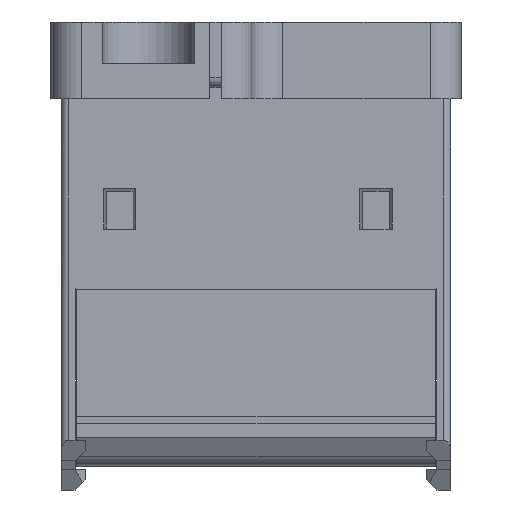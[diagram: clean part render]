
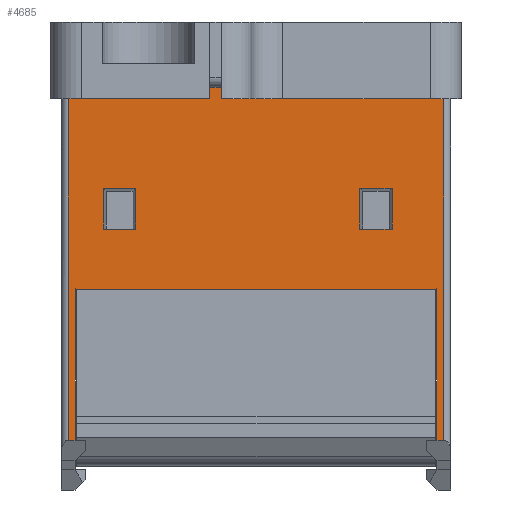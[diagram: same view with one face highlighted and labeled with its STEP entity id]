
A CAD part, front view. The second image highlights one B-rep face of the part: STEP entity #4685.
In plain terms, the highlighted planar face has unit normal (0, -1, 0).
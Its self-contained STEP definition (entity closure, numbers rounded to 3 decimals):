
#3615=CARTESIAN_POINT('',(-17.65,-20.9,-18.6));
#3616=VERTEX_POINT('',#3615);
#3623=CARTESIAN_POINT('',(-17.65,-20.9,-33.3));
#3624=VERTEX_POINT('',#3623);
#3625=CARTESIAN_POINT('',(-17.65,-20.9,-18.6));
#3626=DIRECTION('',(0.0,0.0,-1.0));
#3627=VECTOR('',#3626,14.7);
#3628=LINE('',#3625,#3627);
#3629=EDGE_CURVE('',#3616,#3624,#3628,.T.);
#3815=CARTESIAN_POINT('',(17.65,-20.9,-33.3));
#3816=VERTEX_POINT('',#3815);
#3823=CARTESIAN_POINT('',(17.65,-20.9,-18.6));
#3824=VERTEX_POINT('',#3823);
#3825=CARTESIAN_POINT('',(17.65,-20.9,-18.6));
#3826=DIRECTION('',(0.0,0.0,-1.0));
#3827=VECTOR('',#3826,14.7);
#3828=LINE('',#3825,#3827);
#3829=EDGE_CURVE('',#3824,#3816,#3828,.T.);
#4006=CARTESIAN_POINT('',(-11.73,-20.9,-8.73));
#4007=VERTEX_POINT('',#4006);
#4014=CARTESIAN_POINT('',(-14.87,-20.9,-8.73));
#4015=VERTEX_POINT('',#4014);
#4016=CARTESIAN_POINT('',(-14.87,-20.9,-8.73));
#4017=DIRECTION('',(1.0,0.0,0.0));
#4018=VECTOR('',#4017,3.14);
#4019=LINE('',#4016,#4018);
#4020=EDGE_CURVE('',#4015,#4007,#4019,.T.);
#4037=CARTESIAN_POINT('',(-11.73,-20.9,-12.7));
#4038=VERTEX_POINT('',#4037);
#4045=CARTESIAN_POINT('',(-11.73,-20.9,-8.73));
#4046=DIRECTION('',(0.0,0.0,-1.0));
#4047=VECTOR('',#4046,3.97);
#4048=LINE('',#4045,#4047);
#4049=EDGE_CURVE('',#4007,#4038,#4048,.T.);
#4061=CARTESIAN_POINT('',(13.27,-20.9,-8.73));
#4062=VERTEX_POINT('',#4061);
#4069=CARTESIAN_POINT('',(10.13,-20.9,-8.73));
#4070=VERTEX_POINT('',#4069);
#4071=CARTESIAN_POINT('',(10.13,-20.9,-8.73));
#4072=DIRECTION('',(1.0,0.0,0.0));
#4073=VECTOR('',#4072,3.14);
#4074=LINE('',#4071,#4073);
#4075=EDGE_CURVE('',#4070,#4062,#4074,.T.);
#4092=CARTESIAN_POINT('',(13.27,-20.9,-12.7));
#4093=VERTEX_POINT('',#4092);
#4100=CARTESIAN_POINT('',(13.27,-20.9,-8.73));
#4101=DIRECTION('',(0.0,0.0,-1.0));
#4102=VECTOR('',#4101,3.97);
#4103=LINE('',#4100,#4102);
#4104=EDGE_CURVE('',#4062,#4093,#4103,.T.);
#4402=CARTESIAN_POINT('',(-18.3,-20.9,-33.3));
#4403=VERTEX_POINT('',#4402);
#4411=CARTESIAN_POINT('',(-18.3,-20.9,0.0));
#4412=VERTEX_POINT('',#4411);
#4413=CARTESIAN_POINT('',(-18.3,-20.9,-33.3));
#4414=DIRECTION('',(0.0,0.0,1.0));
#4415=VECTOR('',#4414,33.3);
#4416=LINE('',#4413,#4415);
#4417=EDGE_CURVE('',#4403,#4412,#4416,.T.);
#4529=CARTESIAN_POINT('',(18.3,-20.9,-33.3));
#4530=VERTEX_POINT('',#4529);
#4548=CARTESIAN_POINT('',(18.3,-20.9,0.0));
#4549=VERTEX_POINT('',#4548);
#4557=CARTESIAN_POINT('',(18.3,-20.9,0.0));
#4558=DIRECTION('',(0.0,0.0,-1.0));
#4559=VECTOR('',#4558,33.3);
#4560=LINE('',#4557,#4559);
#4561=EDGE_CURVE('',#4549,#4530,#4560,.T.);
#4566=CARTESIAN_POINT('',(-19.0,-20.9,0.0));
#4567=DIRECTION('',(0.0,-1.0,0.0));
#4568=DIRECTION('',(0.0,0.0,-1.0));
#4569=AXIS2_PLACEMENT_3D('',#4566,#4567,#4568);
#4570=PLANE('',#4569);
#4571=ORIENTED_EDGE('',*,*,#4417,.F.);
#4572=CARTESIAN_POINT('',(-18.3,-20.9,-33.3));
#4573=DIRECTION('',(1.0,0.0,0.0));
#4574=VECTOR('',#4573,0.65);
#4575=LINE('',#4572,#4574);
#4576=EDGE_CURVE('',#4403,#3624,#4575,.T.);
#4577=ORIENTED_EDGE('',*,*,#4576,.T.);
#4578=ORIENTED_EDGE('',*,*,#3629,.F.);
#4579=CARTESIAN_POINT('',(-17.65,-20.9,-18.6));
#4580=DIRECTION('',(1.0,0.0,0.0));
#4581=VECTOR('',#4580,35.3);
#4582=LINE('',#4579,#4581);
#4583=EDGE_CURVE('',#3616,#3824,#4582,.T.);
#4584=ORIENTED_EDGE('',*,*,#4583,.T.);
#4585=ORIENTED_EDGE('',*,*,#3829,.T.);
#4586=CARTESIAN_POINT('',(17.65,-20.9,-33.3));
#4587=DIRECTION('',(1.0,0.0,0.0));
#4588=VECTOR('',#4587,0.65);
#4589=LINE('',#4586,#4588);
#4590=EDGE_CURVE('',#3816,#4530,#4589,.T.);
#4591=ORIENTED_EDGE('',*,*,#4590,.T.);
#4592=ORIENTED_EDGE('',*,*,#4561,.F.);
#4593=CARTESIAN_POINT('',(-1.9,-20.9,0.0));
#4594=VERTEX_POINT('',#4593);
#4595=CARTESIAN_POINT('',(-1.9,-20.9,0.0));
#4596=DIRECTION('',(1.0,0.0,0.0));
#4597=VECTOR('',#4596,20.2);
#4598=LINE('',#4595,#4597);
#4599=EDGE_CURVE('',#4594,#4549,#4598,.T.);
#4600=ORIENTED_EDGE('',*,*,#4599,.F.);
#4601=CARTESIAN_POINT('',(-1.9,-20.9,5.5));
#4602=VERTEX_POINT('',#4601);
#4603=CARTESIAN_POINT('',(-1.9,-20.9,0.0));
#4604=DIRECTION('',(0.0,0.0,1.0));
#4605=VECTOR('',#4604,5.5);
#4606=LINE('',#4603,#4605);
#4607=EDGE_CURVE('',#4594,#4602,#4606,.T.);
#4608=ORIENTED_EDGE('',*,*,#4607,.T.);
#4609=CARTESIAN_POINT('',(-4.5,-20.9,5.5));
#4610=VERTEX_POINT('',#4609);
#4611=CARTESIAN_POINT('',(-4.5,-20.9,5.5));
#4612=DIRECTION('',(1.0,0.0,0.0));
#4613=VECTOR('',#4612,2.6);
#4614=LINE('',#4611,#4613);
#4615=EDGE_CURVE('',#4610,#4602,#4614,.T.);
#4616=ORIENTED_EDGE('',*,*,#4615,.F.);
#4617=CARTESIAN_POINT('',(-4.5,-20.9,2.0));
#4618=VERTEX_POINT('',#4617);
#4619=CARTESIAN_POINT('',(-4.5,-20.9,2.0));
#4620=DIRECTION('',(0.0,0.0,1.0));
#4621=VECTOR('',#4620,3.5);
#4622=LINE('',#4619,#4621);
#4623=EDGE_CURVE('',#4618,#4610,#4622,.T.);
#4624=ORIENTED_EDGE('',*,*,#4623,.F.);
#4625=CARTESIAN_POINT('',(-5.75,-20.9,2.0));
#4626=VERTEX_POINT('',#4625);
#4627=CARTESIAN_POINT('',(-5.75,-20.9,2.0));
#4628=DIRECTION('',(1.0,0.0,0.0));
#4629=VECTOR('',#4628,1.25);
#4630=LINE('',#4627,#4629);
#4631=EDGE_CURVE('',#4626,#4618,#4630,.T.);
#4632=ORIENTED_EDGE('',*,*,#4631,.F.);
#4633=CARTESIAN_POINT('',(-5.75,-20.9,0.0));
#4634=VERTEX_POINT('',#4633);
#4635=CARTESIAN_POINT('',(-5.75,-20.9,0.0));
#4636=DIRECTION('',(0.0,0.0,1.0));
#4637=VECTOR('',#4636,2.0);
#4638=LINE('',#4635,#4637);
#4639=EDGE_CURVE('',#4634,#4626,#4638,.T.);
#4640=ORIENTED_EDGE('',*,*,#4639,.F.);
#4641=CARTESIAN_POINT('',(-18.3,-20.9,0.0));
#4642=DIRECTION('',(1.0,0.0,0.0));
#4643=VECTOR('',#4642,12.55);
#4644=LINE('',#4641,#4643);
#4645=EDGE_CURVE('',#4412,#4634,#4644,.T.);
#4646=ORIENTED_EDGE('',*,*,#4645,.F.);
#4647=EDGE_LOOP('',(#4571,#4577,#4578,#4584,#4585,#4591,#4592,#4600,#4608,#4616,#4624,#4632,#4640,#4646));
#4648=FACE_OUTER_BOUND('',#4647,.T.);
#4649=CARTESIAN_POINT('',(10.13,-20.9,-12.7));
#4650=VERTEX_POINT('',#4649);
#4651=CARTESIAN_POINT('',(13.27,-20.9,-12.7));
#4652=DIRECTION('',(-1.0,0.0,0.0));
#4653=VECTOR('',#4652,3.14);
#4654=LINE('',#4651,#4653);
#4655=EDGE_CURVE('',#4093,#4650,#4654,.T.);
#4656=ORIENTED_EDGE('',*,*,#4655,.T.);
#4657=CARTESIAN_POINT('',(10.13,-20.9,-12.7));
#4658=DIRECTION('',(0.0,0.0,1.0));
#4659=VECTOR('',#4658,3.97);
#4660=LINE('',#4657,#4659);
#4661=EDGE_CURVE('',#4650,#4070,#4660,.T.);
#4662=ORIENTED_EDGE('',*,*,#4661,.T.);
#4663=ORIENTED_EDGE('',*,*,#4075,.T.);
#4664=ORIENTED_EDGE('',*,*,#4104,.T.);
#4665=EDGE_LOOP('',(#4656,#4662,#4663,#4664));
#4666=FACE_BOUND('',#4665,.T.);
#4667=CARTESIAN_POINT('',(-14.87,-20.9,-12.7));
#4668=VERTEX_POINT('',#4667);
#4669=CARTESIAN_POINT('',(-11.73,-20.9,-12.7));
#4670=DIRECTION('',(-1.0,0.0,0.0));
#4671=VECTOR('',#4670,3.14);
#4672=LINE('',#4669,#4671);
#4673=EDGE_CURVE('',#4038,#4668,#4672,.T.);
#4674=ORIENTED_EDGE('',*,*,#4673,.T.);
#4675=CARTESIAN_POINT('',(-14.87,-20.9,-12.7));
#4676=DIRECTION('',(0.0,0.0,1.0));
#4677=VECTOR('',#4676,3.97);
#4678=LINE('',#4675,#4677);
#4679=EDGE_CURVE('',#4668,#4015,#4678,.T.);
#4680=ORIENTED_EDGE('',*,*,#4679,.T.);
#4681=ORIENTED_EDGE('',*,*,#4020,.T.);
#4682=ORIENTED_EDGE('',*,*,#4049,.T.);
#4683=EDGE_LOOP('',(#4674,#4680,#4681,#4682));
#4684=FACE_BOUND('',#4683,.T.);
#4685=ADVANCED_FACE('',(#4648,#4666,#4684),#4570,.T.);
